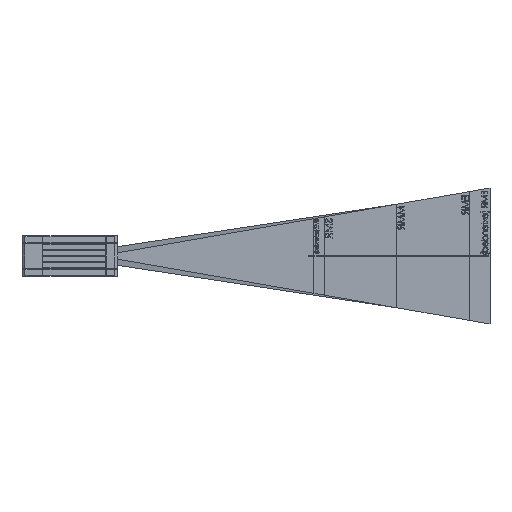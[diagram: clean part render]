
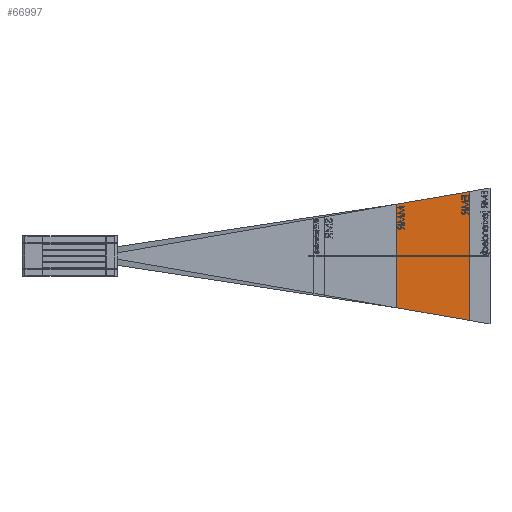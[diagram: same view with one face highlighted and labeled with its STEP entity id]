
A CAD part, left-side view. The second image highlights one B-rep face of the part: STEP entity #66997.
In plain terms, the highlighted planar face has unit normal (-1, 0, 0).
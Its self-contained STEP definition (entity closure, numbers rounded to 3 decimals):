
#11064 = VERTEX_POINT ( 'NONE', #136567 ) ;
#29257 = ORIENTED_EDGE ( 'NONE', *, *, #131450, .F. ) ;
#35967 = VECTOR ( 'NONE', #129385, 1000. ) ;
#42052 = VECTOR ( 'NONE', #78333, 1000. ) ;
#45987 = CARTESIAN_POINT ( 'NONE',  ( -43.505, -10.502, 2.856 ) ) ;
#61695 = LINE ( 'NONE', #45987, #42052 ) ;
#64786 = CARTESIAN_POINT ( 'NONE',  ( -43.505, -11., 0. ) ) ;
#66997 = ADVANCED_FACE ( 'NONE', ( #95108 ), #183417, .F. ) ;
#78333 = DIRECTION ( 'NONE',  ( 0., -0.985, 0.172 ) ) ;
#78519 = CARTESIAN_POINT ( 'NONE',  ( -43.505, -351., -62.2 ) ) ;
#78890 = DIRECTION ( 'NONE',  ( 0., 0., 1. ) ) ;
#81820 = VERTEX_POINT ( 'NONE', #112174 ) ;
#82332 = LINE ( 'NONE', #95973, #35967 ) ;
#91260 = LINE ( 'NONE', #138324, #177356 ) ;
#94110 = DIRECTION ( 'NONE',  ( 0., 0., 1. ) ) ;
#95108 = FACE_OUTER_BOUND ( 'NONE', #169713, .T. ) ;
#95973 = CARTESIAN_POINT ( 'NONE',  ( -43.505, -10.502, -2.856 ) ) ;
#106568 = CARTESIAN_POINT ( 'NONE',  ( -43.505, -281., -50. ) ) ;
#112174 = CARTESIAN_POINT ( 'NONE',  ( -43.505, -351., 62.2 ) ) ;
#119187 = LINE ( 'NONE', #166180, #145904 ) ;
#124957 = ORIENTED_EDGE ( 'NONE', *, *, #171803, .F. ) ;
#128663 = ORIENTED_EDGE ( 'NONE', *, *, #183538, .T. ) ;
#129385 = DIRECTION ( 'NONE',  ( 0., 0.985, 0.172 ) ) ;
#131450 = EDGE_CURVE ( 'NONE', #186035, #167162, #82332, .T. ) ;
#136567 = CARTESIAN_POINT ( 'NONE',  ( -43.505, -281., 50. ) ) ;
#138324 = CARTESIAN_POINT ( 'NONE',  ( -43.505, -351., 0. ) ) ;
#145904 = VECTOR ( 'NONE', #78890, 1000. ) ;
#154651 = EDGE_CURVE ( 'NONE', #167162, #11064, #119187, .T. ) ;
#161574 = AXIS2_PLACEMENT_3D ( 'NONE', #64786, #168659, #184392 ) ;
#166180 = CARTESIAN_POINT ( 'NONE',  ( -43.505, -281., 0. ) ) ;
#167162 = VERTEX_POINT ( 'NONE', #106568 ) ;
#168659 = DIRECTION ( 'NONE',  ( 1., 0., 0. ) ) ;
#169713 = EDGE_LOOP ( 'NONE', ( #188686, #29257, #128663, #124957 ) ) ;
#171803 = EDGE_CURVE ( 'NONE', #11064, #81820, #61695, .T. ) ;
#177356 = VECTOR ( 'NONE', #94110, 1000. ) ;
#183417 = PLANE ( 'NONE',  #161574 ) ;
#183538 = EDGE_CURVE ( 'NONE', #186035, #81820, #91260, .T. ) ;
#184392 = DIRECTION ( 'NONE',  ( 0., 0., -1. ) ) ;
#186035 = VERTEX_POINT ( 'NONE', #78519 ) ;
#188686 = ORIENTED_EDGE ( 'NONE', *, *, #154651, .F. ) ;
